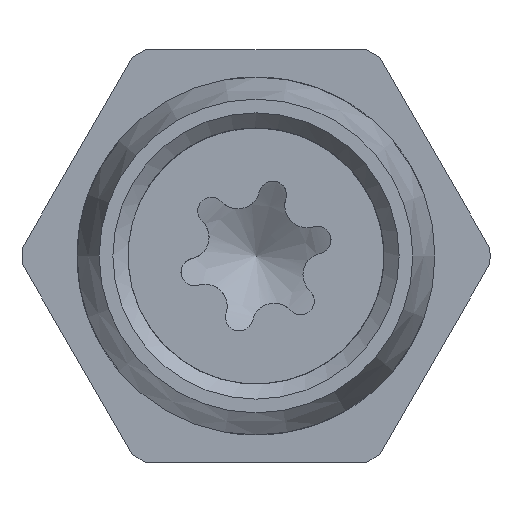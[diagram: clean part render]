
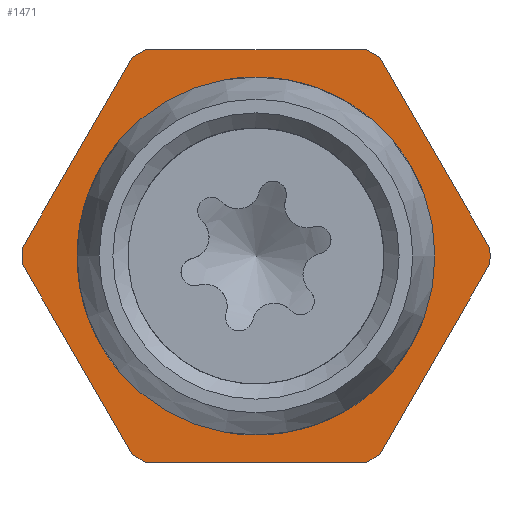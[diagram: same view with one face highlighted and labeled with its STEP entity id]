
A CAD part, front view. The second image highlights one B-rep face of the part: STEP entity #1471.
In plain terms, the highlighted planar face has unit normal (0, -1, 0).
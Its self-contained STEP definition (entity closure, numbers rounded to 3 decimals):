
#62=FACE_BOUND('',#262,.T.);
#80=PLANE('',#1613);
#177=FACE_OUTER_BOUND('',#261,.T.);
#261=EDGE_LOOP('',(#1156,#1157,#1158,#1159,#1160,#1161,#1162,#1163,#1164,
#1165,#1166,#1167));
#262=EDGE_LOOP('',(#1168,#1169));
#352=LINE('',#2770,#440);
#353=LINE('',#2774,#441);
#354=LINE('',#2778,#442);
#355=LINE('',#2782,#443);
#356=LINE('',#2786,#444);
#357=LINE('',#2790,#445);
#440=VECTOR('',#1914,10.);
#441=VECTOR('',#1917,10.);
#442=VECTOR('',#1920,10.);
#443=VECTOR('',#1923,10.);
#444=VECTOR('',#1926,10.);
#445=VECTOR('',#1929,10.);
#518=CIRCLE('',#1611,6.5);
#519=CIRCLE('',#1612,6.5);
#520=CIRCLE('',#1614,8.5);
#521=CIRCLE('',#1615,8.5);
#522=CIRCLE('',#1616,8.5);
#523=CIRCLE('',#1617,8.5);
#524=CIRCLE('',#1618,8.5);
#525=CIRCLE('',#1619,8.5);
#645=VERTEX_POINT('',#2761);
#646=VERTEX_POINT('',#2762);
#647=VERTEX_POINT('',#2768);
#648=VERTEX_POINT('',#2769);
#649=VERTEX_POINT('',#2771);
#650=VERTEX_POINT('',#2773);
#651=VERTEX_POINT('',#2775);
#652=VERTEX_POINT('',#2777);
#653=VERTEX_POINT('',#2779);
#654=VERTEX_POINT('',#2781);
#655=VERTEX_POINT('',#2783);
#656=VERTEX_POINT('',#2785);
#657=VERTEX_POINT('',#2787);
#658=VERTEX_POINT('',#2789);
#828=EDGE_CURVE('',#645,#646,#518,.T.);
#829=EDGE_CURVE('',#646,#645,#519,.T.);
#832=EDGE_CURVE('',#647,#648,#352,.T.);
#833=EDGE_CURVE('',#649,#648,#520,.T.);
#834=EDGE_CURVE('',#649,#650,#353,.T.);
#835=EDGE_CURVE('',#651,#650,#521,.T.);
#836=EDGE_CURVE('',#651,#652,#354,.T.);
#837=EDGE_CURVE('',#653,#652,#522,.T.);
#838=EDGE_CURVE('',#653,#654,#355,.T.);
#839=EDGE_CURVE('',#655,#654,#523,.T.);
#840=EDGE_CURVE('',#655,#656,#356,.T.);
#841=EDGE_CURVE('',#657,#656,#524,.T.);
#842=EDGE_CURVE('',#657,#658,#357,.T.);
#843=EDGE_CURVE('',#647,#658,#525,.T.);
#1156=ORIENTED_EDGE('',*,*,#832,.T.);
#1157=ORIENTED_EDGE('',*,*,#833,.F.);
#1158=ORIENTED_EDGE('',*,*,#834,.T.);
#1159=ORIENTED_EDGE('',*,*,#835,.F.);
#1160=ORIENTED_EDGE('',*,*,#836,.T.);
#1161=ORIENTED_EDGE('',*,*,#837,.F.);
#1162=ORIENTED_EDGE('',*,*,#838,.T.);
#1163=ORIENTED_EDGE('',*,*,#839,.F.);
#1164=ORIENTED_EDGE('',*,*,#840,.T.);
#1165=ORIENTED_EDGE('',*,*,#841,.F.);
#1166=ORIENTED_EDGE('',*,*,#842,.T.);
#1167=ORIENTED_EDGE('',*,*,#843,.F.);
#1168=ORIENTED_EDGE('',*,*,#828,.T.);
#1169=ORIENTED_EDGE('',*,*,#829,.T.);
#1471=ADVANCED_FACE('',(#177,#62),#80,.T.);
#1611=AXIS2_PLACEMENT_3D('',#2763,#1906,#1907);
#1612=AXIS2_PLACEMENT_3D('',#2764,#1908,#1909);
#1613=AXIS2_PLACEMENT_3D('',#2767,#1912,#1913);
#1614=AXIS2_PLACEMENT_3D('',#2772,#1915,#1916);
#1615=AXIS2_PLACEMENT_3D('',#2776,#1918,#1919);
#1616=AXIS2_PLACEMENT_3D('',#2780,#1921,#1922);
#1617=AXIS2_PLACEMENT_3D('',#2784,#1924,#1925);
#1618=AXIS2_PLACEMENT_3D('',#2788,#1927,#1928);
#1619=AXIS2_PLACEMENT_3D('',#2791,#1930,#1931);
#1906=DIRECTION('center_axis',(0.,1.,0.));
#1907=DIRECTION('ref_axis',(-0.5,0.,0.866));
#1908=DIRECTION('center_axis',(0.,1.,0.));
#1909=DIRECTION('ref_axis',(-0.5,0.,0.866));
#1912=DIRECTION('center_axis',(0.,-1.,0.));
#1913=DIRECTION('ref_axis',(0.,0.,
-1.));
#1914=DIRECTION('',(-0.5,0.,0.866));
#1915=DIRECTION('center_axis',(0.,1.,0.));
#1916=DIRECTION('ref_axis',(-1.,0.,0.));
#1917=DIRECTION('',(-1.,0.,0.));
#1918=DIRECTION('center_axis',(0.,1.,0.));
#1919=DIRECTION('ref_axis',(-1.,0.,0.));
#1920=DIRECTION('',(-0.5,0.,-0.866));
#1921=DIRECTION('center_axis',(0.,1.,0.));
#1922=DIRECTION('ref_axis',(-1.,0.,0.));
#1923=DIRECTION('',(0.5,0.,-0.866));
#1924=DIRECTION('center_axis',(0.,1.,0.));
#1925=DIRECTION('ref_axis',(-1.,0.,0.));
#1926=DIRECTION('',(1.,0.,0.));
#1927=DIRECTION('center_axis',(0.,1.,0.));
#1928=DIRECTION('ref_axis',(-1.,0.,0.));
#1929=DIRECTION('',(0.5,0.,0.866));
#1930=DIRECTION('center_axis',(0.,1.,0.));
#1931=DIRECTION('ref_axis',(-1.,0.,0.));
#2761=CARTESIAN_POINT('',(-3.25,28.2,5.629));
#2762=CARTESIAN_POINT('',(3.25,28.2,-5.629));
#2763=CARTESIAN_POINT('Origin',(0.,28.2,0.));
#2764=CARTESIAN_POINT('Origin',(0.,28.2,0.));
#2767=CARTESIAN_POINT('Origin',(-7.,28.2,0.));
#2768=CARTESIAN_POINT('',(8.495,28.2,0.286));
#2769=CARTESIAN_POINT('',(4.495,28.2,7.214));
#2770=CARTESIAN_POINT('',(6.703,28.2,3.391));
#2771=CARTESIAN_POINT('',(4.,28.2,7.5));
#2772=CARTESIAN_POINT('Origin',(0.,28.2,0.));
#2773=CARTESIAN_POINT('',(-4.,28.2,7.5));
#2774=CARTESIAN_POINT('',(-1.335,28.2,7.5));
#2775=CARTESIAN_POINT('',(-4.495,28.2,7.214));
#2776=CARTESIAN_POINT('Origin',(0.,28.2,0.));
#2777=CARTESIAN_POINT('',(-8.495,28.2,0.286));
#2778=CARTESIAN_POINT('',(-6.288,28.2,4.109));
#2779=CARTESIAN_POINT('',(-8.495,28.2,-0.286));
#2780=CARTESIAN_POINT('Origin',(0.,28.2,0.));
#2781=CARTESIAN_POINT('',(-4.495,28.2,-7.214));
#2782=CARTESIAN_POINT('',(-8.453,28.2,-0.359));
#2783=CARTESIAN_POINT('',(-4.,28.2,-7.5));
#2784=CARTESIAN_POINT('Origin',(0.,28.2,0.));
#2785=CARTESIAN_POINT('',(4.,28.2,-7.5));
#2786=CARTESIAN_POINT('',(-5.665,28.2,-7.5));
#2787=CARTESIAN_POINT('',(4.495,28.2,-7.214));
#2788=CARTESIAN_POINT('Origin',(0.,28.2,0.));
#2789=CARTESIAN_POINT('',(8.495,28.2,-0.286));
#2790=CARTESIAN_POINT('',(4.538,28.2,-7.141));
#2791=CARTESIAN_POINT('Origin',(0.,28.2,0.));
